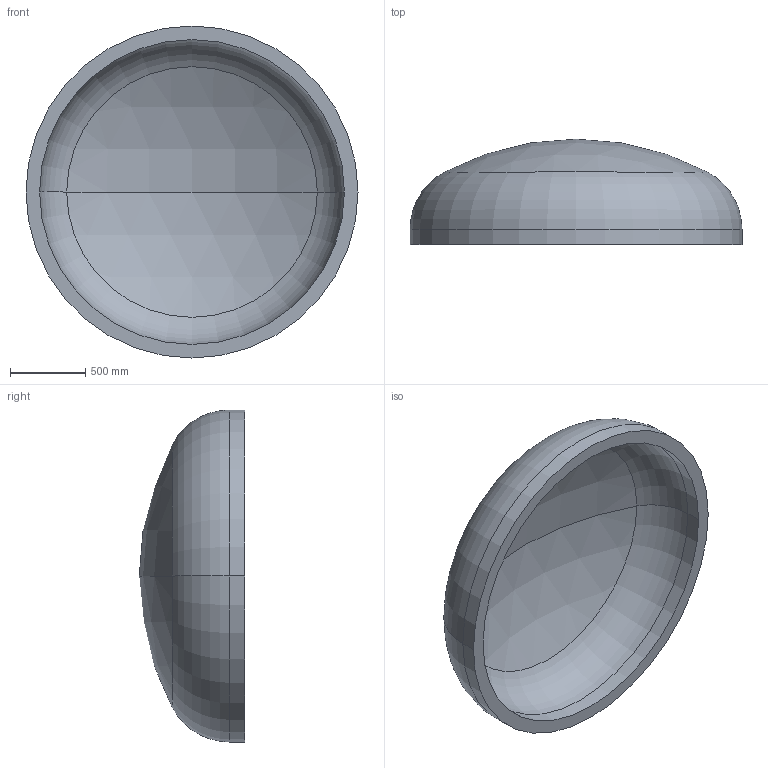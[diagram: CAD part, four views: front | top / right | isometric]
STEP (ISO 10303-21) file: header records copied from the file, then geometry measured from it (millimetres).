
FILE_DESCRIPTION (( 'STEP AP203' ), '1' );
FILE_NAME ('DIN 28013 Korbbogenform_-_Boden DIN 28013 - 2200 x 100 - I - s=90.step', '2016-07-01T14:51:20', ( '' ), ( '' ), 'SwSTEP 2.0', 'SolidWorks 2013', '' );
FILE_SCHEMA (( 'CONFIG_CONTROL_DESIGN' ));
Length unit declared in the file: millimetre
Products named in the file (1): DIN 28013 Korbbogenform_-_Boden DIN 28013 - 2200 x 100 - I - s=90
Bounding box: 2200 x 698 x 2200 mm (x, y, z)
Volume: 509368999.1 mm3; surface area: 11932860.8 mm2
Topology: 1 solids, 1 shells, 13 faces, 24 edges, 14 vertices
Faces by surface type: torus 4, cylinder 4, sphere 4, plane 1
Entity records: 407 total; most frequent: DIRECTION 72, CARTESIAN_POINT 52, ORIENTED_EDGE 48, AXIS2_PLACEMENT_3D 34, EDGE_CURVE 24, CIRCLE 20, VERTEX_POINT 14, EDGE_LOOP 14
